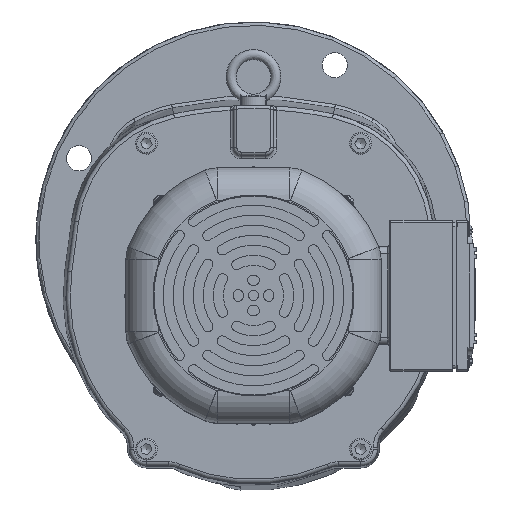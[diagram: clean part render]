
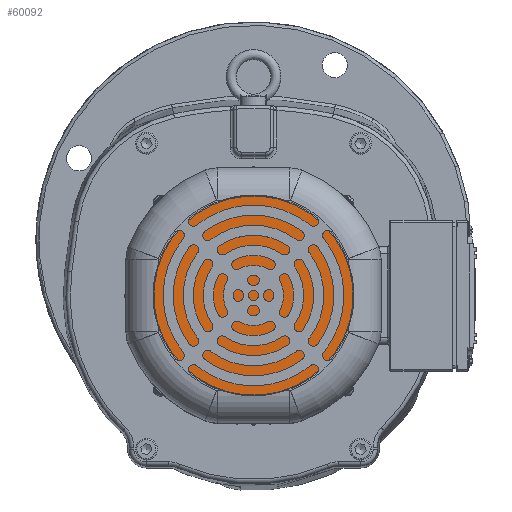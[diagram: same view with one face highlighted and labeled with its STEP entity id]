
A CAD part, top view. The second image highlights one B-rep face of the part: STEP entity #60092.
In plain terms, the highlighted planar face has unit normal (0, 0, 1).
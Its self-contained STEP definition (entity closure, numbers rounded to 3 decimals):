
#1479=PLANE('',#64650);
#10056=FACE_OUTER_BOUND('',#13759,.T.);
#13759=EDGE_LOOP('',(#41585));
#17547=CIRCLE('',#64648,59.5);
#24063=VERTEX_POINT('',#92322);
#30370=EDGE_CURVE('',#24063,#24063,#17547,.T.);
#41585=ORIENTED_EDGE('',*,*,#30370,.F.);
#60092=ADVANCED_FACE('',(#10056),#1479,.F.);
#64648=AXIS2_PLACEMENT_3D('',#92323,#74150,#74151);
#64650=AXIS2_PLACEMENT_3D('',#92327,#74155,#74156);
#74150=DIRECTION('center_axis',(0.,0.,
-1.));
#74151=DIRECTION('ref_axis',(0.707,-0.707,0.));
#74155=DIRECTION('center_axis',(0.,0.,
-1.));
#74156=DIRECTION('ref_axis',(0.707,-0.707,0.));
#92322=CARTESIAN_POINT('',(-55.709,24.579,301.176));
#92323=CARTESIAN_POINT('Origin',(-13.636,-17.494,301.176));
#92327=CARTESIAN_POINT('Origin',(-13.636,-17.494,301.176));
